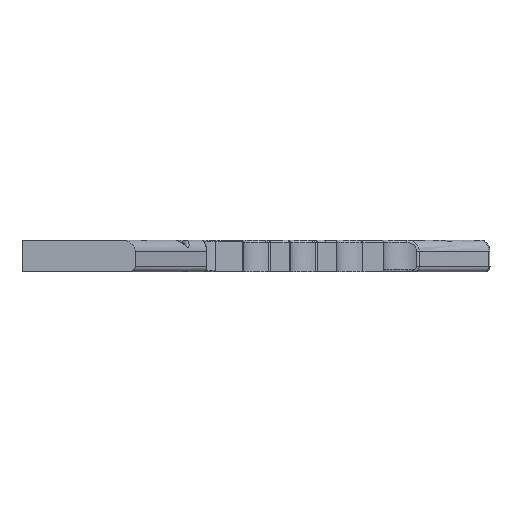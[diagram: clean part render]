
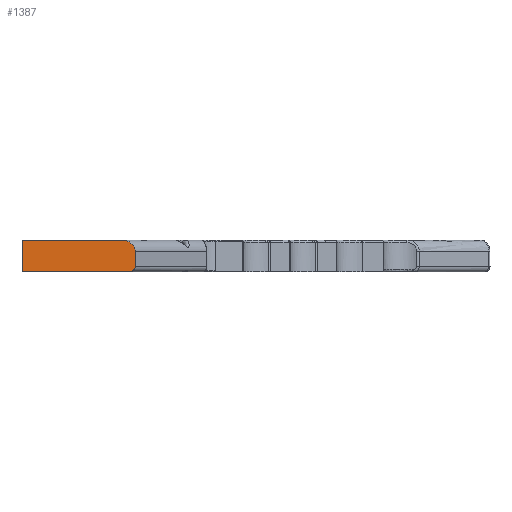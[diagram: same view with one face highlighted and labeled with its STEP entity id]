
A CAD part, left-side view. The second image highlights one B-rep face of the part: STEP entity #1387.
In plain terms, the highlighted planar face has unit normal (-1, 0, 0).
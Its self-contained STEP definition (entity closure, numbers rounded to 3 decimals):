
#66 = VERTEX_POINT('',#67);
#67 = CARTESIAN_POINT('',(-22.25,22.25,12.5));
#73 = EDGE_CURVE('',#66,#74,#76,.T.);
#74 = VERTEX_POINT('',#75);
#75 = CARTESIAN_POINT('',(-22.25,-17.062,12.5));
#76 = LINE('',#77,#78);
#77 = CARTESIAN_POINT('',(-22.25,22.25,12.5));
#78 = VECTOR('',#79,1.);
#79 = DIRECTION('',(0.,-1.,0.));
#1315 = EDGE_CURVE('',#1316,#66,#1318,.T.);
#1316 = VERTEX_POINT('',#1317);
#1317 = CARTESIAN_POINT('',(-22.25,22.25,0.));
#1318 = LINE('',#1319,#1320);
#1319 = CARTESIAN_POINT('',(-22.25,22.25,0.));
#1320 = VECTOR('',#1321,1.);
#1321 = DIRECTION('',(0.,0.,1.));
#1387 = ADVANCED_FACE('',(#1388),#1424,.F.);
#1388 = FACE_BOUND('',#1389,.F.);
#1389 = EDGE_LOOP('',(#1390,#1400,#1409,#1415,#1416,#1417));
#1390 = ORIENTED_EDGE('',*,*,#1391,.F.);
#1391 = EDGE_CURVE('',#1392,#1394,#1396,.T.);
#1392 = VERTEX_POINT('',#1393);
#1393 = CARTESIAN_POINT('',(-22.25,-22.25,2.));
#1394 = VERTEX_POINT('',#1395);
#1395 = CARTESIAN_POINT('',(-22.25,-22.25,8.1));
#1396 = LINE('',#1397,#1398);
#1397 = CARTESIAN_POINT('',(-22.25,-22.25,0.));
#1398 = VECTOR('',#1399,1.);
#1399 = DIRECTION('',(0.,0.,1.));
#1400 = ORIENTED_EDGE('',*,*,#1401,.T.);
#1401 = EDGE_CURVE('',#1392,#1402,#1404,.T.);
#1402 = VERTEX_POINT('',#1403);
#1403 = CARTESIAN_POINT('',(-22.25,-19.892,0.));
#1404 = ELLIPSE('',#1405,2.358,2.);
#1405 = AXIS2_PLACEMENT_3D('',#1406,#1407,#1408);
#1406 = CARTESIAN_POINT('',(-22.25,-19.892,2.));
#1407 = DIRECTION('',(1.,0.,0.));
#1408 = DIRECTION('',(0.,1.,0.));
#1409 = ORIENTED_EDGE('',*,*,#1410,.F.);
#1410 = EDGE_CURVE('',#1316,#1402,#1411,.T.);
#1411 = LINE('',#1412,#1413);
#1412 = CARTESIAN_POINT('',(-22.25,22.25,0.));
#1413 = VECTOR('',#1414,1.);
#1414 = DIRECTION('',(0.,-1.,0.));
#1415 = ORIENTED_EDGE('',*,*,#1315,.T.);
#1416 = ORIENTED_EDGE('',*,*,#73,.T.);
#1417 = ORIENTED_EDGE('',*,*,#1418,.T.);
#1418 = EDGE_CURVE('',#74,#1394,#1419,.T.);
#1419 = ELLIPSE('',#1420,5.188,4.4);
#1420 = AXIS2_PLACEMENT_3D('',#1421,#1422,#1423);
#1421 = CARTESIAN_POINT('',(-22.25,-17.062,8.1));
#1422 = DIRECTION('',(1.,0.,0.));
#1423 = DIRECTION('',(0.,-1.,0.));
#1424 = PLANE('',#1425);
#1425 = AXIS2_PLACEMENT_3D('',#1426,#1427,#1428);
#1426 = CARTESIAN_POINT('',(-22.25,22.25,0.));
#1427 = DIRECTION('',(1.,0.,0.));
#1428 = DIRECTION('',(0.,-1.,0.));
